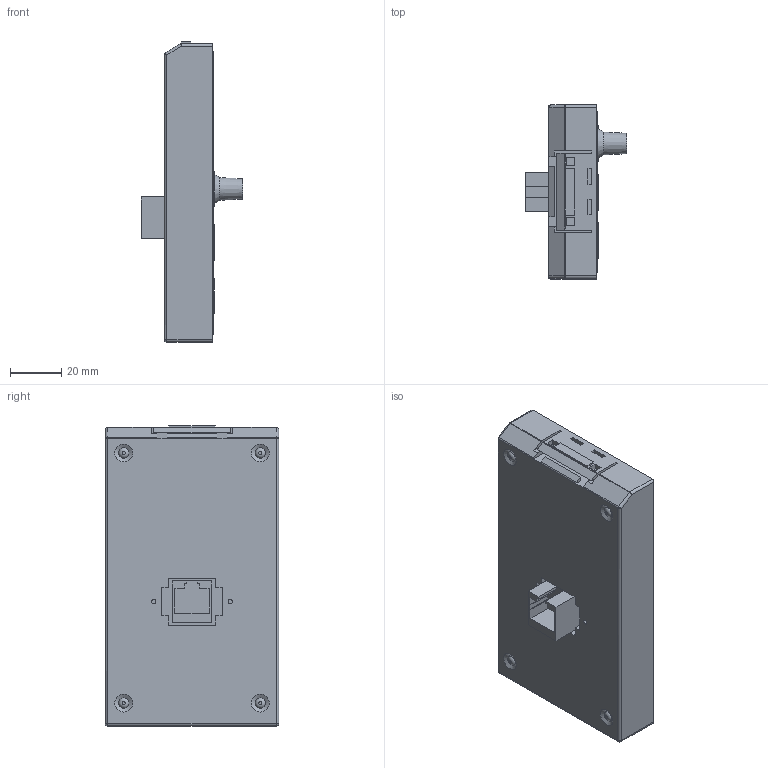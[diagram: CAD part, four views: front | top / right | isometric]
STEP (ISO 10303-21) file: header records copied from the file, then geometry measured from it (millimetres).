
FILE_DESCRIPTION(('STEP AP203'), '1');
FILE_NAME('Ïàíåëü óïðàâëåíèÿ _ FCI-KP-B', '', ('UNSPECIFIED'), ('UNSPECIFIED'), 'C3D Converter', 'C3D Toolkit', '');
FILE_SCHEMA(('CONFIG_CONTROL_DESIGN'));
Length unit declared in the file: millimetre
Products named in the file (1): FCI-KP-B
Bounding box: 39.77 x 68 x 117.6 mm (x, y, z)
Volume: 151852.5 mm3; surface area: 26603.9 mm2
Topology: 1 solids, 5 shells, 230 faces, 579 edges, 372 vertices
Faces by surface type: plane 156, cylinder 58, cone 6, bspline 4, torus 4, sphere 2
Full cylindrical faces by diameter (mm): 1.7 x2, 2 x4, 12 x1
Entity records: 9238 total; most frequent: CARTESIAN_POINT 1843, DIRECTION 1124, ORIENTED_EDGE 1112, EDGE_CURVE 556, LINE 426, VECTOR 426, VERTEX_POINT 372, AXIS2_PLACEMENT_3D 349
